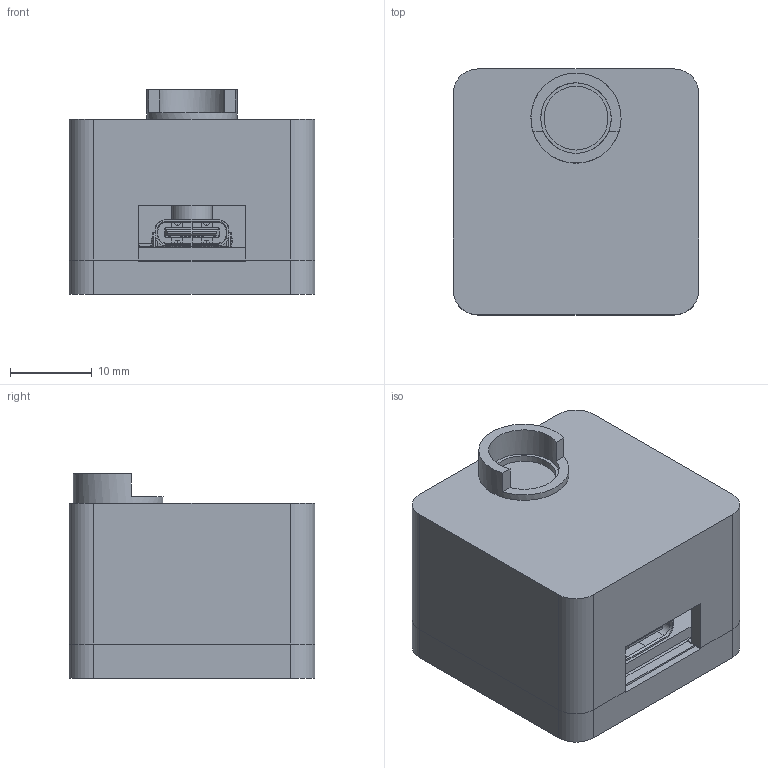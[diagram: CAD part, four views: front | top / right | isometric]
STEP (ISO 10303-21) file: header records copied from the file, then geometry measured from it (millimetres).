
FILE_DESCRIPTION(('FreeCAD Model'),'2;1');
FILE_NAME('Open CASCADE Shape Model','2026-09-05T19:19:43',('FreeCAD'),( 'FreeCAD'),'Open CASCADE STEP processor 7.8','FreeCAD','Unknown');
FILE_SCHEMA(('AUTOMOTIVE_DESIGN { 1 0 10303 214 1 1 1 1 }'));
Length unit declared in the file: millimetre
Products named in the file (1): Open CASCADE STEP translator 7.8 5
Bounding box: 30 x 30 x 25 mm (x, y, z)
Volume: 7946.8 mm3; surface area: 11527.9 mm2
Topology: 61 solids, 61 shells, 1598 faces, 4089 edges, 2612 vertices
Faces by surface type: plane 1136, cylinder 417, bspline 32, cone 12, sphere 1
Full cylindrical faces by diameter (mm): 0.5 x2, 0.65 x2, 0.9 x4, 1.7 x2, 2 x2, 2.2 x2, 2.3 x2, 5 x1, 7.8 x1, 8.6 x1, 9.6 x1, 9.9 x1, 11 x1
Entity records: 47774 total; most frequent: CARTESIAN_POINT 8547, ORIENTED_EDGE 8176, DIRECTION 8034, EDGE_CURVE 4088, LINE 3156, VECTOR 3156, VERTEX_POINT 2612, AXIS2_PLACEMENT_3D 2439
